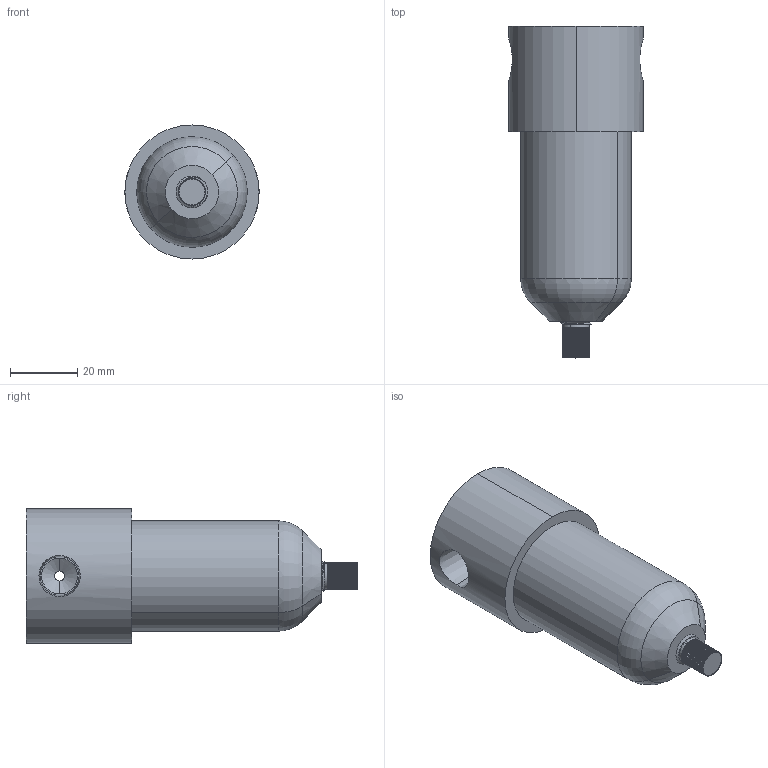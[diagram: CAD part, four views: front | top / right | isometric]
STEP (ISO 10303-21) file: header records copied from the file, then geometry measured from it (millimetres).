
FILE_DESCRIPTION (( 'STEP AP203' ), '1' );
FILE_NAME ('F504-02-Y.STEP', '2016-01-14T18:20:47', ( '' ), ( '' ), 'SwSTEP 2.0', 'SolidWorks 2014', '' );
FILE_SCHEMA (( 'CONFIG_CONTROL_DESIGN' ));
Length unit declared in the file: millimetre
Products named in the file (4): F504-1; F504-2; F504-3; F504-02-Y
Assembly tree (3 placements, depth 2):
  F504-02-Y
    F504-1
    F504-2
    F504-3
Bounding box: 40 x 99 x 40 mm (x, y, z)
Volume: 81892.4 mm3; surface area: 15584.6 mm2
Topology: 3 solids, 3 shells, 198 faces, 560 edges, 370 vertices
Faces by surface type: plane 153, cylinder 31, cone 10, torus 2, bspline 2
Entity records: 8224 total; most frequent: CARTESIAN_POINT 2705, ORIENTED_EDGE 1120, DIRECTION 1041, EDGE_CURVE 560, LINE 377, VECTOR 377, VERTEX_POINT 370, AXIS2_PLACEMENT_3D 332
